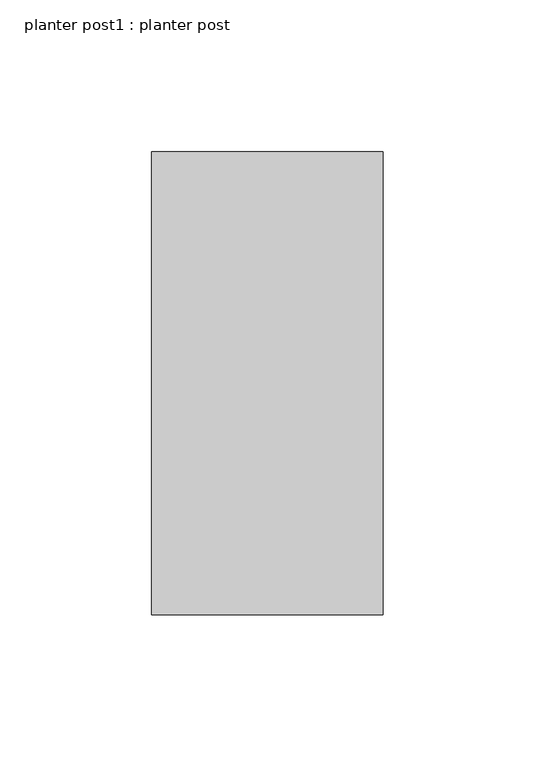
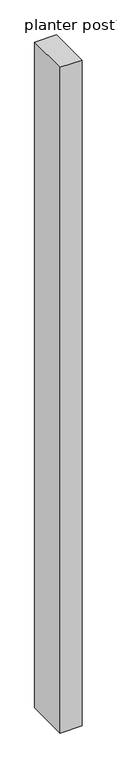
"""IFC4 building model written with IfcOpenShell, lengths in millimetres: column geometry, planter post1 : planter post."""

from ifc_helpers import new_model, si_unit, frame, origin, place, context, project, spatial, polyline, outline, extrude, source, transform, mapped, element, save


def planter_post1_planter_post_7fd84948(model_context):
    return source(origin(), model_context, "Body", "SweptSolid", [
        extrude(outline(polyline([(22651.5779546, 203839.8449484), (22727.7779546, 203839.8449484), (22727.7779546, 203687.4449484), (22651.5779546, 203687.4449484), (22651.5779546, 203839.8449484)])), frame((0.0, 0.0, 294982.9), z_axis=(0.0, 0.0, 1.0), x_axis=(1.0, 0.0, 0.0)), (0.0, 0.0, 1.0), 2438.4),
    ])


if __name__ == "__main__":
    model = new_model("IFC4")
    model_context = context("Model", 3, world=origin())
    ifc_project = project(units=[si_unit("LENGTHUNIT", "METRE", prefix="MILLI")], contexts=[model_context])
    site = spatial("IfcSite", under=ifc_project)
    building = spatial("IfcBuilding", under=site)
    placement = place(None, origin())
    planter_post1_planter_post_shape = planter_post1_planter_post_7fd84948(model_context)
    element("IfcColumn", 1, ObjectType="planter post1 : planter post", at=placement, inside=building, context=model_context, shape_type="MappedRepresentation", body=[
        mapped(planter_post1_planter_post_shape, transform((0.0, 0.0, 0.0), x_axis=(1.0, 0.0, 0.0), y_axis=(0.0, 1.0, 0.0), z_axis=(0.0, 0.0, 1.0))),
    ])
    save(model, "model.ifc")
